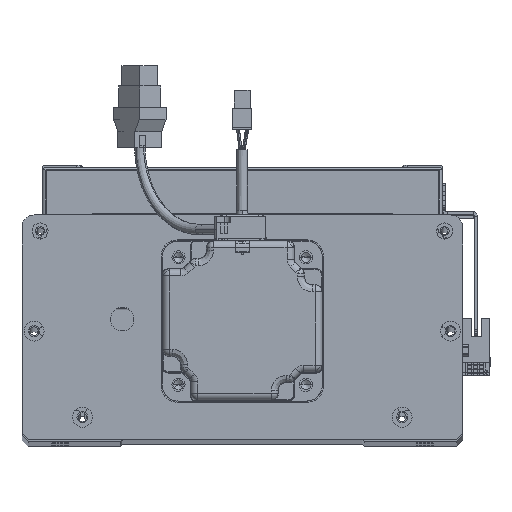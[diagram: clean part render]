
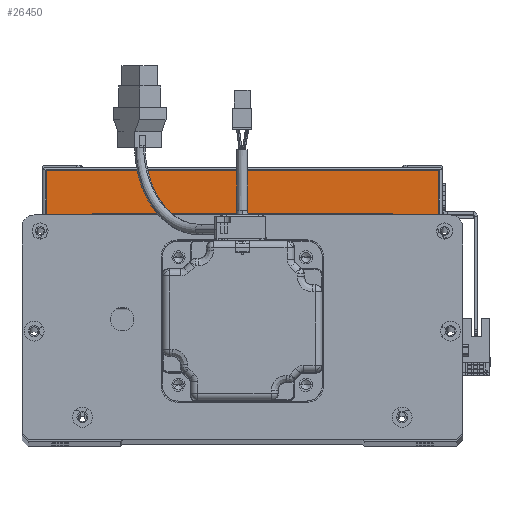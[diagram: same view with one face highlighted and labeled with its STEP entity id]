
A CAD part, top view. The second image highlights one B-rep face of the part: STEP entity #26450.
In plain terms, the highlighted planar face has unit normal (0, 0, 1) as drawn and (1, 0, 0) by its records, which use the part's own axes.
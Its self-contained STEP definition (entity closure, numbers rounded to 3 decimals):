
#4537 = VECTOR ( 'NONE', #53550, 1000. ) ;
#7954 = ORIENTED_EDGE ( 'NONE', *, *, #17987, .T. ) ;
#9953 = VECTOR ( 'NONE', #16376, 1000. ) ;
#11551 = EDGE_CURVE ( 'NONE', #55515, #59512, #52151, .T. ) ;
#16376 = DIRECTION ( 'NONE',  ( 0., 0., -1. ) ) ;
#17987 = EDGE_CURVE ( 'NONE', #59512, #55279, #46702, .T. ) ;
#18663 = ORIENTED_EDGE ( 'NONE', *, *, #11551, .T. ) ;
#19708 = DIRECTION ( 'NONE',  ( 0., 0., 1. ) ) ;
#22132 = CARTESIAN_POINT ( 'NONE',  ( 150., 0., -100. ) ) ;
#22881 = AXIS2_PLACEMENT_3D ( 'NONE', #42765, #63708, #41858 ) ;
#26271 = CARTESIAN_POINT ( 'NONE',  ( 150., 0., -98. ) ) ;
#26450 = ADVANCED_FACE ( 'NONE', ( #66816 ), #32159, .F. ) ;
#26452 = CARTESIAN_POINT ( 'NONE',  ( 150., 23.5, -98. ) ) ;
#31123 = CARTESIAN_POINT ( 'NONE',  ( 150., 0., 98. ) ) ;
#32159 = PLANE ( 'NONE',  #22881 ) ;
#32363 = ORIENTED_EDGE ( 'NONE', *, *, #47865, .T. ) ;
#35571 = CARTESIAN_POINT ( 'NONE',  ( 150., 22.5, 98. ) ) ;
#40786 = VERTEX_POINT ( 'NONE', #48544 ) ;
#41858 = DIRECTION ( 'NONE',  ( 0., 0., 1. ) ) ;
#42504 = EDGE_LOOP ( 'NONE', ( #7954, #32363, #48660, #18663 ) ) ;
#42765 = CARTESIAN_POINT ( 'NONE',  ( 150., 23.5, -100. ) ) ;
#43265 = CARTESIAN_POINT ( 'NONE',  ( 150., 23.5, 98. ) ) ;
#46139 = VECTOR ( 'NONE', #19708, 1000. ) ;
#46702 = LINE ( 'NONE', #26452, #4537 ) ;
#47846 = LINE ( 'NONE', #35571, #46139 ) ;
#47865 = EDGE_CURVE ( 'NONE', #55279, #40786, #47846, .T. ) ;
#47933 = DIRECTION ( 'NONE',  ( 0., -1., 0. ) ) ;
#48544 = CARTESIAN_POINT ( 'NONE',  ( 150., 22.5, 98. ) ) ;
#48660 = ORIENTED_EDGE ( 'NONE', *, *, #64404, .T. ) ;
#49943 = CARTESIAN_POINT ( 'NONE',  ( 150., 22.5, -98. ) ) ;
#52151 = LINE ( 'NONE', #22132, #9953 ) ;
#53550 = DIRECTION ( 'NONE',  ( 0., 1., 0. ) ) ;
#55279 = VERTEX_POINT ( 'NONE', #49943 ) ;
#55474 = LINE ( 'NONE', #43265, #57945 ) ;
#55515 = VERTEX_POINT ( 'NONE', #31123 ) ;
#57945 = VECTOR ( 'NONE', #47933, 1000. ) ;
#59512 = VERTEX_POINT ( 'NONE', #26271 ) ;
#63708 = DIRECTION ( 'NONE',  ( -1., 0., 0. ) ) ;
#64404 = EDGE_CURVE ( 'NONE', #40786, #55515, #55474, .T. ) ;
#66816 = FACE_OUTER_BOUND ( 'NONE', #42504, .T. ) ;
